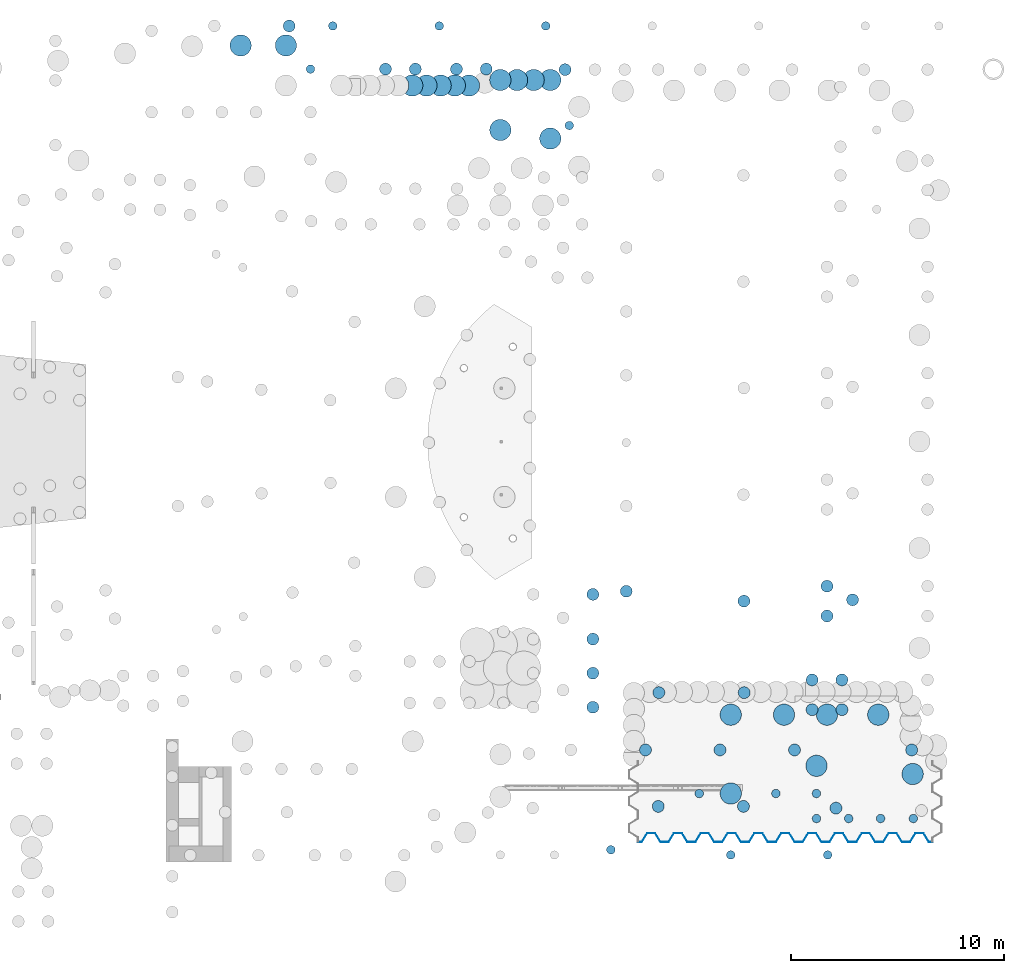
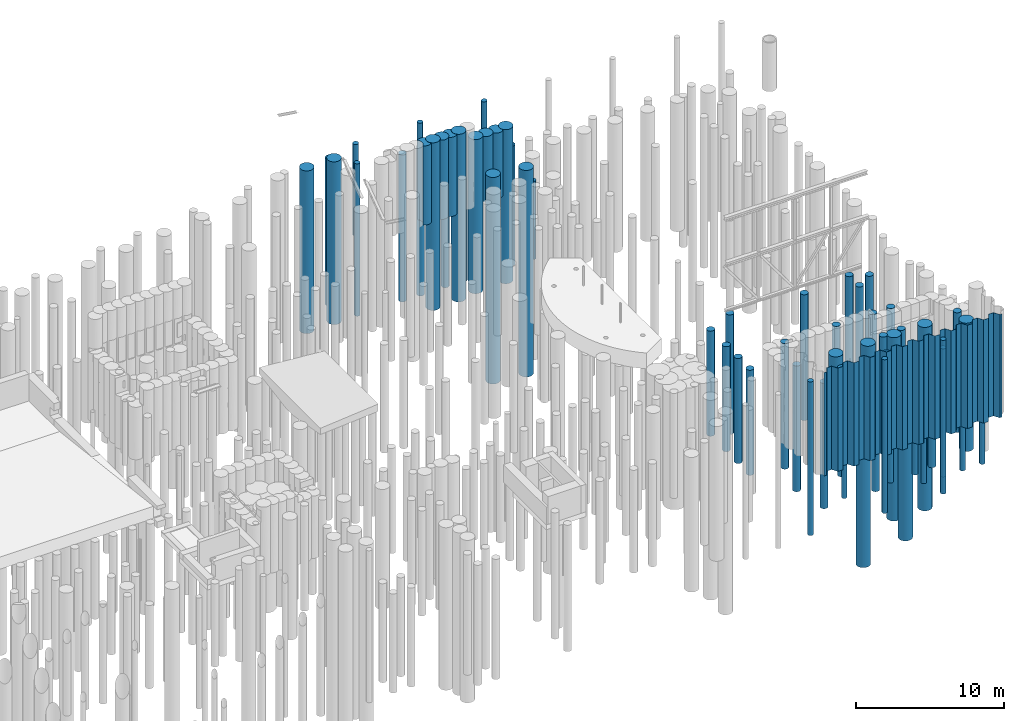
# One storey, part 5 of 104: 63 piles, 1 footing.
"""IFC2X3 building model written with IfcOpenShell, lengths in millimetres."""

from ifc_helpers import new_model, entity, si_unit, converted_unit, derived_unit, direction, frame, frame_2d, origin, origin_2d_with_axis, place, context, subcontext, project, spatial, polyline, circle_curve, parameter, trimmed, segment, composite_curve, circle, outline, extrude, source, transform, mapped, material, material_list, type_object, type_shapes, element, save


model = new_model("IFC2X3")

# Units and contexts
model_context = context("Model", 3, precision=0.01, world=origin(), true_north=direction((6.12303176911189e-17, 1.0)))
body_context = subcontext(model_context, "Body", "Model", "MODEL_VIEW")
ifc_project = project(units=[si_unit("LENGTHUNIT", "METRE", prefix="MILLI"), si_unit("AREAUNIT", "SQUARE_METRE", prefix="MILLI"), si_unit("VOLUMEUNIT", "CUBIC_METRE"), converted_unit("PLANEANGLEUNIT", "DEGREE", entity("IfcRatioMeasure", 0.0174532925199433), si_unit("PLANEANGLEUNIT", "RADIAN"), dimensions=[0, 0, 0, 0, 0, 0, 0]), si_unit("MASSUNIT", "GRAM", prefix="KILO"), derived_unit("MASSDENSITYUNIT", [(si_unit("MASSUNIT", "GRAM", prefix="KILO"), 1), (si_unit("LENGTHUNIT", "METRE"), -3)]), derived_unit("MOMENTOFINERTIAUNIT", [(si_unit("LENGTHUNIT", "METRE"), 4)]), si_unit("TIMEUNIT", "SECOND"), si_unit("FREQUENCYUNIT", "HERTZ"), si_unit("THERMODYNAMICTEMPERATUREUNIT", "DEGREE_CELSIUS"), derived_unit("THERMALTRANSMITTANCEUNIT", [(si_unit("MASSUNIT", "GRAM", prefix="KILO"), 1), (si_unit("THERMODYNAMICTEMPERATUREUNIT", "KELVIN"), -1), (si_unit("TIMEUNIT", "SECOND"), -3)]), derived_unit("VOLUMETRICFLOWRATEUNIT", [(si_unit("LENGTHUNIT", "METRE"), 3), (si_unit("TIMEUNIT", "SECOND"), -1)]), si_unit("ELECTRICCURRENTUNIT", "AMPERE"), si_unit("ELECTRICVOLTAGEUNIT", "VOLT"), si_unit("POWERUNIT", "WATT"), si_unit("FORCEUNIT", "NEWTON", prefix="KILO"), si_unit("ILLUMINANCEUNIT", "LUX"), si_unit("LUMINOUSFLUXUNIT", "LUMEN"), si_unit("LUMINOUSINTENSITYUNIT", "CANDELA"), derived_unit("USERDEFINED", [(si_unit("MASSUNIT", "GRAM", prefix="KILO"), -1), (si_unit("LENGTHUNIT", "METRE"), -2), (si_unit("TIMEUNIT", "SECOND"), 3), (si_unit("LUMINOUSFLUXUNIT", "LUMEN"), 1)]), derived_unit("LINEARVELOCITYUNIT", [(si_unit("LENGTHUNIT", "METRE"), 1), (si_unit("TIMEUNIT", "SECOND"), -1)]), si_unit("PRESSUREUNIT", "PASCAL"), derived_unit("USERDEFINED", [(si_unit("LENGTHUNIT", "METRE"), -2), (si_unit("MASSUNIT", "GRAM", prefix="KILO"), 1), (si_unit("TIMEUNIT", "SECOND"), -2)]), derived_unit("LINEARFORCEUNIT", [(si_unit("MASSUNIT", "GRAM", prefix="KILO"), 1), (si_unit("LENGTHUNIT", "METRE"), 1), (si_unit("TIMEUNIT", "SECOND"), -2), (si_unit("LENGTHUNIT", "METRE"), -1)]), derived_unit("PLANARFORCEUNIT", [(si_unit("MASSUNIT", "GRAM", prefix="KILO"), 1), (si_unit("LENGTHUNIT", "METRE"), 1), (si_unit("TIMEUNIT", "SECOND"), -2), (si_unit("LENGTHUNIT", "METRE"), -2)])], contexts=[model_context])

# Site, building, storey
site_placement = place(None, origin())
site = spatial("IfcSite", under=ifc_project, at=site_placement, Name="Theater aan de Parade", CompositionType="ELEMENT")
building_placement = place(site_placement, origin())
building = spatial("IfcBuilding", under=site, at=building_placement, Name="Theater aan de Parade", CompositionType="ELEMENT")
storey_placement = place(building_placement, frame((0.0, 0.0, -5520.0)))
storey = spatial("IfcBuildingStorey", under=building, at=storey_placement, Name="-2 kelder", CompositionType="ELEMENT", Elevation=-5520.0)

# Piles
ifc_material_1 = material(Name="<Unnamed>")
shared_shape_1 = source(origin(), body_context, "Body", "SweptSolid", [
    extrude(circle(Radius=280.0, at=frame_2d((1.69197988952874e-14, -4.61316659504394e-13), x_axis=(1.0, 0.0))), frame((0.0, 0.0, -12360.0)), (0.0, 0.0, 1.0), 8639.99999999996),
])
for number, where in (
    (1, (71875.0, 25285.0, 5520.0)),
    (2, (71875.0, 23185.0, 5520.0)),
    (3, (71875.0, 21585.0, 5520.0)),
    (4, (71875.0, 19985.0, 5520.0)),
):
    element("IfcPile", number, at=place(storey_placement, frame(where)), inside=storey, material=ifc_material_1, Name="17_PBT_SFO_paal_rond:Ø560 (betonpaal)_bestaand", ObjectType="17_PBT_SFO_paal_rond:Ø560 (betonpaal)_bestaand", PredefinedType="NOTDEFINED", context=body_context, shape_type="MappedRepresentation", body=[
        mapped(shared_shape_1, transform((0.0, 0.0, 0.0), scale=1.0)),
    ])
shared_shape_2 = source(origin(), body_context, "Body", "SweptSolid", [
    extrude(circle(Radius=280.0, at=frame_2d((1.69197988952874e-14, -4.61316659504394e-13), x_axis=(1.0, 0.0))), frame((0.0, 0.0, -12860.0)), (0.0, 0.0, 1.0), 12080.0),
])
for number, where in (
    (5, (57615.0, 51975.0, 5520.0)),
    (6, (62140.0, 49950.0, 5520.0)),
    (7, (63540.0, 49950.0, 5520.0)),
    (8, (65470.0, 49950.0, 5520.0)),
    (9, (66870.0, 49950.0, 5520.0)),
):
    element("IfcPile", number, at=place(storey_placement, frame(where)), inside=storey, material=ifc_material_1, Name="17_PBT_SFO_paal_rond:Ø560 (betonpaal)_bestaand", ObjectType="17_PBT_SFO_paal_rond:Ø560 (betonpaal)_bestaand", PredefinedType="NOTDEFINED", context=body_context, shape_type="MappedRepresentation", body=[
        mapped(shared_shape_2, transform((0.0, 0.0, 0.0), scale=1.0)),
    ])
shared_shape_3 = source(origin(), body_context, "Body", "SweptSolid", [
    extrude(circle(Radius=200.0, at=frame_2d((1.69197988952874e-14, -3.02923644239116e-13), x_axis=(1.0, 0.0))), frame((0.0, 0.0, -12860.0)), (0.0, 0.0, 1.0), 12530.0),
])
pile_1_placement = place(storey_placement, frame((58615.0, 49950.0, 5520.0)))
element("IfcPile", 10, at=pile_1_placement, inside=storey, material=ifc_material_1, Name="17_PBT_SFO_paal_rond:Ø400 (betonpaal)_bestaand", ObjectType="17_PBT_SFO_paal_rond:Ø400 (betonpaal)_bestaand", PredefinedType="NOTDEFINED", context=body_context, shape_type="MappedRepresentation", body=[
    mapped(shared_shape_3, transform((0.0, 0.0, 0.0), scale=1.0)),
])
shared_shape_4 = source(origin(), body_context, "Body", "SweptSolid", [
    extrude(circle(Radius=200.0, at=frame_2d((1.69197988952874e-14, -3.19843443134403e-13), x_axis=(1.0, 0.0))), frame((0.0, 0.0, -7860.0)), (0.0, 0.0, 1.0), 7529.99999999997),
])
for number, where in (
    (11, (64665.0, 51975.0, 5520.0)),
    (12, (59665.0, 51975.0, 5520.0)),
    (13, (69665.0, 51975.0, 5520.0)),
):
    element("IfcPile", number, at=place(storey_placement, frame(where)), inside=storey, material=ifc_material_1, Name="17_PBT_SFO_paal_rond:Ø400 (betonpaal)_bestaand", ObjectType="17_PBT_SFO_paal_rond:Ø400 (betonpaal)_bestaand", PredefinedType="NOTDEFINED", context=body_context, shape_type="MappedRepresentation", body=[
        mapped(shared_shape_4, transform((0.0, 0.0, 0.0), scale=1.0)),
    ])
shared_shape_5 = source(origin(), body_context, "Body", "SweptSolid", [
    extrude(circle(Radius=280.0, at=frame_2d((1.69197988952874e-14, -4.61316659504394e-13), x_axis=(1.0, 0.0))), frame((0.0, 0.0, -12860.0)), (0.0, 0.0, 1.0), 9839.99999999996),
])
for number, where in (
    (14, (70570.0, 49925.0, 5520.0)),
    (15, (73445.0, 25430.0, 5520.0)),
    (16, (86845.0, 17980.0, 5520.0)),
):
    element("IfcPile", number, at=place(storey_placement, frame(where)), inside=storey, material=ifc_material_1, Name="17_PBT_SFO_paal_rond:Ø560 (betonpaal)_bestaand", ObjectType="17_PBT_SFO_paal_rond:Ø560 (betonpaal)_bestaand", PredefinedType="NOTDEFINED", context=body_context, shape_type="MappedRepresentation", body=[
        mapped(shared_shape_5, transform((0.0, 0.0, 0.0), scale=1.0)),
    ])
shared_shape_6 = source(origin(), body_context, "Body", "SweptSolid", [
    extrude(circle(Radius=280.0, at=frame_2d((1.69197988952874e-14, -4.61316659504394e-13), x_axis=(1.0, 0.0))), frame((0.0, 0.0, -13360.0)), (0.0, 0.0, 1.0), 10340.0),
])
for number, where in (
    (17, (74345.0, 17980.0, 5520.0)),
    (18, (78980.0, 20670.0, 5520.0)),
    (19, (74975.0, 20670.0, 5520.0)),
    (20, (78970.0, 24970.0, 5520.0)),
):
    element("IfcPile", number, at=place(storey_placement, frame(where)), inside=storey, material=ifc_material_1, Name="17_PBT_SFO_paal_rond:Ø560 (betonpaal)_bestaand", ObjectType="17_PBT_SFO_paal_rond:Ø560 (betonpaal)_bestaand", PredefinedType="NOTDEFINED", context=body_context, shape_type="MappedRepresentation", body=[
        mapped(shared_shape_6, transform((0.0, 0.0, 0.0), scale=1.0)),
    ])
shared_shape_7 = source(origin(), body_context, "Body", "SweptSolid", [
    extrude(circle(Radius=200.0, at=frame_2d((1.69197988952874e-14, -3.47332565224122e-13), x_axis=(1.0, 0.0))), frame((0.0, 0.0, -10860.0)), (0.0, 0.0, 1.0), 6439.99999999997),
])
pile_2_placement = place(storey_placement, frame((70770.0, 47300.0, 5520.0)))
element("IfcPile", 21, at=pile_2_placement, inside=storey, material=ifc_material_1, Name="17_PBT_SFO_paal_rond:Ø400 (betonpaal)_bestaand", ObjectType="17_PBT_SFO_paal_rond:Ø400 (betonpaal)_bestaand", PredefinedType="NOTDEFINED", context=body_context, shape_type="MappedRepresentation", body=[
    mapped(shared_shape_7, transform((0.0, 0.0, 0.0), scale=1.0)),
])
shared_shape_8 = source(origin(), body_context, "Body", "SweptSolid", [
    extrude(circle(Radius=280.0, at=frame_2d((-1.69197988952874e-14, -5.23489148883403e-13), x_axis=(1.0, 0.0))), frame((0.0, 0.0, -13360.0)), (0.0, 0.0, 1.0), 8839.99999999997),
])
for number, where in (
    (22, (77845.0, 17980.0, 5520.0)),
    (23, (78945.0, 15330.0, 5520.0)),
    (24, (82170.0, 19870.0, 5520.0)),
    (25, (81345.0, 17980.0, 5520.0)),
):
    element("IfcPile", number, at=place(storey_placement, frame(where)), inside=storey, material=ifc_material_1, Name="17_PBT_SFO_paal_rond:Ø560 (betonpaal)_bestaand", ObjectType="17_PBT_SFO_paal_rond:Ø560 (betonpaal)_bestaand", PredefinedType="NOTDEFINED", context=body_context, shape_type="MappedRepresentation", body=[
        mapped(shared_shape_8, transform((0.0, 0.0, 0.0), scale=1.0)),
    ])
shared_shape_9 = source(origin(), body_context, "Body", "SweptSolid", [
    extrude(circle(Radius=280.0, at=frame_2d((-1.69197988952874e-14, -5.23489148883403e-13), x_axis=(1.0, 0.0))), frame((0.0, 0.0, -13360.0)), (0.0, 0.0, 1.0), 10310.0),
])
pile_3_placement = place(storey_placement, frame((74945.0, 15330.0, 5520.0)))
element("IfcPile", 26, at=pile_3_placement, inside=storey, material=ifc_material_1, Name="17_PBT_SFO_paal_rond:Ø560 (betonpaal)_bestaand", ObjectType="17_PBT_SFO_paal_rond:Ø560 (betonpaal)_bestaand", PredefinedType="NOTDEFINED", context=body_context, shape_type="MappedRepresentation", body=[
    mapped(shared_shape_9, transform((0.0, 0.0, 0.0), scale=1.0)),
])
shared_shape_10 = source(origin(), body_context, "Body", "SweptSolid", [
    extrude(circle(Radius=280.0, at=frame_2d((-1.69197988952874e-14, -5.23489148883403e-13), x_axis=(1.0, 0.0))), frame((0.0, 0.0, -13360.0)), (0.0, 0.0, 1.0), 10040.0),
])
for number, where in (
    (27, (84070.0, 25030.0, 5520.0)),
    (28, (82870.0, 25670.0, 5520.0)),
    (29, (82870.0, 24270.0, 5520.0)),
):
    element("IfcPile", number, at=place(storey_placement, frame(where)), inside=storey, material=ifc_material_1, Name="17_PBT_SFO_paal_rond:Ø560 (betonpaal)_bestaand", ObjectType="17_PBT_SFO_paal_rond:Ø560 (betonpaal)_bestaand", PredefinedType="NOTDEFINED", context=body_context, shape_type="MappedRepresentation", body=[
        mapped(shared_shape_10, transform((0.0, 0.0, 0.0), scale=1.0)),
    ])
shared_shape_11 = source(origin(), body_context, "Body", "SweptSolid", [
    extrude(circle(Radius=280.0, at=frame_2d((1.69197988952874e-14, -4.61316659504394e-13), x_axis=(1.0, 0.0))), frame((0.0, 0.0, -13360.0)), (0.0, 0.0, 1.0), 9839.99999999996),
])
for number, where in (
    (30, (83570.0, 21270.0, 5520.0)),
    (31, (82170.0, 21270.0, 5520.0)),
):
    element("IfcPile", number, at=place(storey_placement, frame(where)), inside=storey, material=ifc_material_1, Name="17_PBT_SFO_paal_rond:Ø560 (betonpaal)_bestaand", ObjectType="17_PBT_SFO_paal_rond:Ø560 (betonpaal)_bestaand", PredefinedType="NOTDEFINED", context=body_context, shape_type="MappedRepresentation", body=[
        mapped(shared_shape_11, transform((0.0, 0.0, 0.0), scale=1.0)),
    ])
shared_shape_12 = source(origin(), body_context, "Body", "SweptSolid", [
    extrude(circle(Radius=280.0, at=frame_2d((1.69197988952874e-14, -4.61316659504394e-13), x_axis=(1.0, 0.0))), frame((0.0, 0.0, -13360.0)), (0.0, 0.0, 1.0), 8889.99999999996),
])
pile_4_placement = place(storey_placement, frame((83570.0, 19870.0, 5520.0)))
element("IfcPile", 32, at=pile_4_placement, inside=storey, material=ifc_material_1, Name="17_PBT_SFO_paal_rond:Ø560 (betonpaal)_bestaand", ObjectType="17_PBT_SFO_paal_rond:Ø560 (betonpaal)_bestaand", PredefinedType="NOTDEFINED", context=body_context, shape_type="MappedRepresentation", body=[
    mapped(shared_shape_12, transform((0.0, 0.0, 0.0), scale=1.0)),
])
shared_shape_13 = source(origin(), body_context, "Body", "SweptSolid", [
    extrude(circle(Radius=280.0, at=frame_2d((1.69197988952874e-14, -4.61316659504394e-13), x_axis=(1.0, 0.0))), frame((0.0, 0.0, -12860.0)), (0.0, 0.0, 1.0), 9809.99999999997),
])
pile_5_placement = place(storey_placement, frame((83290.0, 15250.0, 5520.0)))
element("IfcPile", 33, at=pile_5_placement, inside=storey, material=ifc_material_1, Name="17_PBT_SFO_paal_rond:Ø560 (betonpaal)_bestaand", ObjectType="17_PBT_SFO_paal_rond:Ø560 (betonpaal)_bestaand", PredefinedType="NOTDEFINED", context=body_context, shape_type="MappedRepresentation", body=[
    mapped(shared_shape_13, transform((0.0, 0.0, 0.0), scale=1.0)),
])
ifc_material_2 = material(Name="00_PBT_MAT_grout")
shared_shape_14 = source(origin(), body_context, "Body", "SweptSolid", [
    extrude(circle(Radius=500.0, at=frame_2d((3.3839597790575e-14, -7.7318529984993e-13), x_axis=(1.0, 0.0))), frame((0.0, 0.0, -13610.0)), (0.0, 0.0, 1.0), 9089.99999999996),
])
for number, where in (
    (34, (78350.1000324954, 19635.0002435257, 5520.0)),
    (35, (80850.1000324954, 19635.0002435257, 5520.0)),
):
    element("IfcPile", number, at=place(storey_placement, frame(where)), inside=storey, material=ifc_material_2, Name="17_PBT_SFO_paal_rond:Ø1000 (jetgroutpaal) buiten kelder", ObjectType="17_PBT_SFO_paal_rond:Ø1000 (jetgroutpaal) buiten kelder", PredefinedType="NOTDEFINED", context=body_context, shape_type="MappedRepresentation", body=[
        mapped(shared_shape_14, transform((0.0, 0.0, 0.0), scale=1.0)),
    ])
shared_shape_15 = source(origin(), body_context, "Body", "SweptSolid", [
    extrude(circle(Radius=500.0, at=frame_2d((3.3839597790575e-14, -7.7318529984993e-13), x_axis=(1.0, 0.0))), frame((0.0, 0.0, -19610.0)), (0.0, 0.0, 1.0), 15090.0),
])
for number, where in (
    (36, (78350.1000324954, 15934.9960954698, 5520.0)),
    (37, (82870.0, 19635.0002435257, 5520.0)),
    (38, (85275.1000324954, 19635.0002435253, 5520.0)),
    (39, (82375.008421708, 17234.9960954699, 5520.0)),
):
    element("IfcPile", number, at=place(storey_placement, frame(where)), inside=storey, material=ifc_material_2, Name="17_PBT_SFO_paal_rond:Ø1000 (jetgroutpaal) buiten kelder", ObjectType="17_PBT_SFO_paal_rond:Ø1000 (jetgroutpaal) buiten kelder", PredefinedType="NOTDEFINED", context=body_context, shape_type="MappedRepresentation", body=[
        mapped(shared_shape_15, transform((0.0, 0.0, 0.0), scale=1.0)),
    ])
shared_shape_16 = source(origin(), body_context, "Body", "SweptSolid", [
    extrude(circle(Radius=200.0, at=frame_2d((1.69197988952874e-14, -3.02923644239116e-13), x_axis=(1.0, 0.0))), frame((0.0, 0.0, -13610.0)), (0.0, 0.0, 1.0), 9089.99999999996),
])
for number, where in (
    (40, (80470.0, 15934.9960954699, 5520.0)),
    (41, (82375.008421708, 15934.9960954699, 5520.0)),
):
    element("IfcPile", number, at=place(storey_placement, frame(where)), inside=storey, material=ifc_material_1, Name="17_PBT_SFO_paal_rond:Ø400 (Avegaarpaal)", ObjectType="17_PBT_SFO_paal_rond:Ø400 (Avegaarpaal)", PredefinedType="NOTDEFINED", context=body_context, shape_type="MappedRepresentation", body=[
        mapped(shared_shape_16, transform((0.0, 0.0, 0.0), scale=1.0)),
    ])
shared_shape_17 = source(origin(), body_context, "Body", "SweptSolid", [
    extrude(circle(Radius=200.0, at=frame_2d((1.69197988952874e-14, -3.47332565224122e-13), x_axis=(1.0, 0.0))), frame((0.0, 0.0, -13610.0)), (0.0, 0.0, 1.0), 10560.0),
])
for number, where in (
    (42, (82375.008421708, 14760.0, 5520.0)),
    (43, (86923.0, 14760.0, 5520.0)),
    (44, (85385.0, 14760.0, 5520.0)),
    (45, (83885.0, 14760.0, 5520.0)),
    (46, (76870.0, 15934.9960954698, 5520.0)),
):
    element("IfcPile", number, at=place(storey_placement, frame(where)), inside=storey, material=ifc_material_1, Name="17_PBT_SFO_paal_rond:Ø400 (Avegaarpaal)", ObjectType="17_PBT_SFO_paal_rond:Ø400 (Avegaarpaal)", PredefinedType="NOTDEFINED", context=body_context, shape_type="MappedRepresentation", body=[
        mapped(shared_shape_17, transform((0.0, 0.0, 0.0), scale=1.0)),
    ])
shared_shape_18 = source(origin(), body_context, "Body", "SweptSolid", [
    extrude(circle(Radius=500.0, at=frame_2d((2.57497682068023e-28, -8.84207602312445e-13), x_axis=(1.0, 0.0))), frame((0.0, 0.0, -13610.0)), (0.0, 0.0, 1.0), 10560.0),
])
pile_6_placement = place(storey_placement, frame((86890.8589695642, 16848.4322481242, 5520.0)))
element("IfcPile", 47, at=pile_6_placement, inside=storey, material=ifc_material_2, Name="17_PBT_SFO_paal_rond:Ø1000 (jetgroutpaal) buiten kelder", ObjectType="17_PBT_SFO_paal_rond:Ø1000 (jetgroutpaal) buiten kelder", PredefinedType="NOTDEFINED", context=body_context, shape_type="MappedRepresentation", body=[
    mapped(shared_shape_18, transform((0.0, 0.0, 0.0), scale=1.0)),
])
shared_shape_19 = source(origin(), body_context, "Body", "SweptSolid", [
    extrude(circle(Radius=500.0, at=frame_2d((3.3839597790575e-14, -7.7318529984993e-13), x_axis=(1.0, 0.0))), frame((0.0, 0.0, -19610.0)), (0.0, 0.0, 1.0), 16990.0),
])
for number, where in (
    (48, (67531.2561009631, 47086.8723406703, 5520.0)),
    (49, (69875.4088248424, 46686.8723406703, 5520.0)),
):
    element("IfcPile", number, at=place(storey_placement, frame(where)), inside=storey, material=ifc_material_2, Name="17_PBT_SFO_paal_rond:Ø1000 (jetgroutpaal) buiten kelder", ObjectType="17_PBT_SFO_paal_rond:Ø1000 (jetgroutpaal) buiten kelder", PredefinedType="NOTDEFINED", context=body_context, shape_type="MappedRepresentation", body=[
        mapped(shared_shape_19, transform((0.0, 0.0, 0.0), scale=1.0)),
    ])
shared_shape_20 = source(origin(), body_context, "Body", "SweptSolid", [
    extrude(circle(Radius=500.0, at=frame_2d((3.3839597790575e-14, -7.7318529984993e-13), x_axis=(1.0, 0.0))), frame((0.0, 0.0, -13610.0)), (0.0, 0.0, 1.0), 12680.0),
])
for number, where in (
    (50, (67531.2561009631, 49437.0, 5520.0)),
    (51, (69875.4088248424, 49437.0, 5520.0)),
):
    element("IfcPile", number, at=place(storey_placement, frame(where)), inside=storey, material=ifc_material_2, Name="17_PBT_SFO_paal_rond:Ø1000 (jetgroutpaal) buiten kelder", ObjectType="17_PBT_SFO_paal_rond:Ø1000 (jetgroutpaal) buiten kelder", PredefinedType="NOTDEFINED", context=body_context, shape_type="MappedRepresentation", body=[
        mapped(shared_shape_20, transform((0.0, 0.0, 0.0), scale=1.0)),
    ])
shared_shape_21 = source(origin(), body_context, "Body", "SweptSolid", [
    extrude(circle(Radius=500.0, at=frame_2d((3.3839597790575e-14, -7.7318529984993e-13), x_axis=(1.0, 0.0))), frame((0.0, 0.0, -13610.0)), (0.0, 0.0, 1.0), 13390.0),
])
for number, where in (
    (52, (57462.031563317, 51060.519112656, 5520.0)),
    (53, (55337.0315633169, 51060.519112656, 5520.0)),
):
    element("IfcPile", number, at=place(storey_placement, frame(where)), inside=storey, material=ifc_material_2, Name="17_PBT_SFO_paal_rond:Ø1000 (jetgroutpaal) buiten kelder", ObjectType="17_PBT_SFO_paal_rond:Ø1000 (jetgroutpaal) buiten kelder", PredefinedType="NOTDEFINED", context=body_context, shape_type="MappedRepresentation", body=[
        mapped(shared_shape_21, transform((0.0, 0.0, 0.0), scale=1.0)),
    ])
shared_shape_22 = source(origin(), body_context, "Body", "SweptSolid", [
    extrude(circle(Radius=500.0, at=frame_2d((3.3839597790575e-14, -7.7318529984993e-13), x_axis=(1.0, 0.0))), frame((0.0, 0.0, -13610.0)), (0.0, 0.0, 1.0), 13790.0),
])
for number, where in (
    (54, (64060.0, 49176.5644848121, 5520.0)),
    (55, (66060.0, 49176.5644848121, 5520.0)),
):
    element("IfcPile", number, at=place(storey_placement, frame(where)), inside=storey, material=ifc_material_2, Name="17_PBT_SFO_paal_rond:Ø1000 (jetgroutpaal) buiten kelder", ObjectType="17_PBT_SFO_paal_rond:Ø1000 (jetgroutpaal) buiten kelder", PredefinedType="NOTDEFINED", context=body_context, shape_type="MappedRepresentation", body=[
        mapped(shared_shape_22, transform((0.0, 0.0, 0.0), scale=1.0)),
    ])
shared_shape_23 = source(origin(), body_context, "Body", "SweptSolid", [
    extrude(circle(Radius=200.0, at=frame_2d((1.69197988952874e-14, -3.02923644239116e-13), x_axis=(1.0, 0.0))), frame((0.0, 0.0, -13610.0)), (0.0, 0.0, 1.0), 12640.0),
])
for number, where in (
    (56, (78350.0, 13050.0, 5520.0)),
    (57, (82900.0, 13050.0, 5520.0)),
    (58, (72720.0, 13292.0, 5520.0)),
):
    element("IfcPile", number, at=place(storey_placement, frame(where)), inside=storey, material=ifc_material_1, Name="17_PBT_SFO_paal_rond:Ø400 (Avegaarpaal)", ObjectType="17_PBT_SFO_paal_rond:Ø400 (Avegaarpaal)", PredefinedType="NOTDEFINED", context=body_context, shape_type="MappedRepresentation", body=[
        mapped(shared_shape_23, transform((0.0, 0.0, 0.0), scale=1.0)),
    ])

# Footing
ifc_material_3 = material(Name="00_PBT_MAT_staal")
ifc_material_list_1 = material_list([ifc_material_3, ifc_material_3, ifc_material_3, ifc_material_3, ifc_material_3, ifc_material_3, ifc_material_3, ifc_material_3, ifc_material_3, ifc_material_3, ifc_material_3])
ifc_material_list_2 = material_list([ifc_material_3, ifc_material_3, ifc_material_3, ifc_material_3, ifc_material_3, ifc_material_3, ifc_material_3, ifc_material_3, ifc_material_3, ifc_material_3, ifc_material_3])
type_product = type_object("IfcTypeProduct", Name="indicatie:Damwand ter indicatie", material=ifc_material_list_2)
shared_shape_24 = source(origin(), body_context, "Body", "SweptSolid", [
    extrude(outline(polyline([(-352.027000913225, -297.259971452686), (-454.198255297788, -463.702528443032), (-443.119129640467, -470.503482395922), (-344.262095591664, -309.459971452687), (141.516310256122, -309.459971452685), (341.464356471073, 16.2663228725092), (121.587681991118, 449.434774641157), (216.050253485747, 603.319465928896), (204.971127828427, 610.120419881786), (107.194335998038, 450.836682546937), (327.071010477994, 17.6682307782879), (133.751404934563, -297.259971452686), (-352.027000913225, -297.259971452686)])), frame((74612.7999999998, 13796.8228664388, -9510.0), z_axis=(0.0, 0.0, -1.0), x_axis=(0.523150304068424, 0.852240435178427, 0.0)), (0.0, 0.0, -1.0), 8500.0),
    extrude(outline(polyline([(-352.027000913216, -297.259971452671), (-454.198255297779, -463.702528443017), (-443.119129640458, -470.503482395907), (-344.262095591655, -309.459971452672), (141.516310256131, -309.459971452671), (341.464356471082, 16.266322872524), (121.587681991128, 449.434774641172), (216.050253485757, 603.319465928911), (204.971127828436, 610.120419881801), (107.194335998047, 450.836682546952), (327.071010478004, 17.6682307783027), (133.751404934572, -297.259971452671), (-352.027000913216, -297.259971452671)])), frame((75872.7999999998, 13796.8228664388, -9510.0), z_axis=(0.0, 0.0, -1.0), x_axis=(0.523150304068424, 0.852240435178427, 0.0)), (0.0, 0.0, -1.0), 8500.0),
    extrude(outline(polyline([(-352.027000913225, -297.259971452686), (-454.198255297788, -463.702528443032), (-443.119129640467, -470.503482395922), (-344.262095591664, -309.459971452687), (141.516310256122, -309.459971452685), (341.464356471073, 16.2663228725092), (121.587681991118, 449.434774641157), (216.050253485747, 603.319465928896), (204.971127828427, 610.120419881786), (107.194335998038, 450.836682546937), (327.071010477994, 17.6682307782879), (133.751404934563, -297.259971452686), (-352.027000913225, -297.259971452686)])), frame((77132.7999999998, 13796.8228664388, -9510.0), z_axis=(0.0, 0.0, -1.0), x_axis=(0.523150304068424, 0.852240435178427, 0.0)), (0.0, 0.0, -1.0), 8500.0),
    extrude(outline(polyline([(-352.027000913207, -297.259971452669), (-454.198255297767, -463.702528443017), (-443.119129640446, -470.503482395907), (-344.262095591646, -309.45997145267), (141.51631025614, -309.459971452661), (341.464356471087, 16.2663228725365), (121.58768199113, 449.434774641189), (216.050253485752, 603.319465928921), (204.971127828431, 610.120419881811), (107.194335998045, 450.836682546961), (327.071010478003, 17.6682307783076), (133.751404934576, -297.259971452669), (-352.027000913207, -297.259971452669)])), frame((78392.7999999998, 13796.8228664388, -9510.0), z_axis=(0.0, 0.0, -1.0), x_axis=(0.523150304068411, 0.852240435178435, 0.0)), (0.0, 0.0, -1.0), 8500.0),
    extrude(outline(polyline([(-352.027000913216, -297.259971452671), (-454.198255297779, -463.702528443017), (-443.119129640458, -470.503482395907), (-344.262095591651, -309.459971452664), (141.516310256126, -309.459971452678), (341.464356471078, 16.2663228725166), (121.587681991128, 449.434774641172), (216.050253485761, 603.319465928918), (204.97112782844, 610.120419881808), (107.194335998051, 450.836682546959), (327.071010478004, 17.6682307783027), (133.751404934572, -297.259971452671), (-352.027000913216, -297.259971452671)])), frame((79652.7999999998, 13796.8228664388, -9510.0), z_axis=(0.0, 0.0, -1.0), x_axis=(0.523150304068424, 0.852240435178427, 0.0)), (0.0, 0.0, -1.0), 8500.0),
    extrude(outline(polyline([(-352.027000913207, -297.259971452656), (-454.19825529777, -463.702528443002), (-443.119129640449, -470.503482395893), (-344.262095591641, -309.45997145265), (141.516310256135, -309.459971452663), (341.464356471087, 16.2663228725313), (121.587681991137, 449.434774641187), (216.05025348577, 603.319465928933), (204.971127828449, 610.120419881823), (107.19433599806, 450.836682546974), (327.071010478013, 17.6682307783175), (133.751404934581, -297.259971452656), (-352.027000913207, -297.259971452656)])), frame((80912.7999999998, 13796.8228664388, -9510.0), z_axis=(0.0, 0.0, -1.0), x_axis=(0.523150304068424, 0.852240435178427, 0.0)), (0.0, 0.0, -1.0), 8500.0),
    extrude(outline(polyline([(-352.027000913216, -297.259971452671), (-454.198255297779, -463.702528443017), (-443.119129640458, -470.503482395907), (-344.262095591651, -309.459971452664), (141.516310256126, -309.459971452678), (341.464356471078, 16.2663228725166), (121.587681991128, 449.434774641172), (216.050253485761, 603.319465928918), (204.97112782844, 610.120419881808), (107.194335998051, 450.836682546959), (327.071010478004, 17.6682307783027), (133.751404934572, -297.259971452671), (-352.027000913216, -297.259971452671)])), frame((82172.7999999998, 13796.8228664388, -9510.0), z_axis=(0.0, 0.0, -1.0), x_axis=(0.523150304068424, 0.852240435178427, 0.0)), (0.0, 0.0, -1.0), 8500.0),
    extrude(outline(polyline([(-352.027000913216, -297.259971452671), (-454.198255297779, -463.702528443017), (-443.119129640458, -470.503482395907), (-344.262095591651, -309.459971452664), (141.516310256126, -309.459971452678), (341.464356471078, 16.2663228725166), (121.587681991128, 449.434774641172), (216.050253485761, 603.319465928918), (204.97112782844, 610.120419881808), (107.194335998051, 450.836682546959), (327.071010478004, 17.6682307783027), (133.751404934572, -297.259971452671), (-352.027000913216, -297.259971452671)])), frame((83432.7999999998, 13796.8228664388, -9510.0), z_axis=(0.0, 0.0, -1.0), x_axis=(0.523150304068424, 0.852240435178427, 0.0)), (0.0, 0.0, -1.0), 8500.0),
    extrude(outline(polyline([(-352.027000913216, -297.259971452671), (-454.198255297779, -463.702528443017), (-443.119129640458, -470.503482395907), (-344.262095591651, -309.459971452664), (141.516310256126, -309.459971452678), (341.464356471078, 16.2663228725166), (121.587681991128, 449.434774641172), (216.050253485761, 603.319465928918), (204.97112782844, 610.120419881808), (107.194335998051, 450.836682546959), (327.071010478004, 17.6682307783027), (133.751404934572, -297.259971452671), (-352.027000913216, -297.259971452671)])), frame((84692.7999999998, 13796.8228664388, -9510.0), z_axis=(0.0, 0.0, -1.0), x_axis=(0.523150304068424, 0.852240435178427, 0.0)), (0.0, 0.0, -1.0), 8500.0),
    extrude(outline(polyline([(-352.027000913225, -297.259971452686), (-454.198255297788, -463.702528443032), (-443.119129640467, -470.503482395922), (-344.26209559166, -309.459971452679), (141.516310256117, -309.459971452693), (341.464356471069, 16.2663228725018), (121.587681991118, 449.434774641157), (216.050253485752, 603.319465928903), (204.971127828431, 610.120419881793), (107.194335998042, 450.836682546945), (327.071010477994, 17.6682307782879), (133.751404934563, -297.259971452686), (-352.027000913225, -297.259971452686)])), frame((85952.7999999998, 13796.8228664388, -9510.0), z_axis=(0.0, 0.0, -1.0), x_axis=(0.523150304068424, 0.852240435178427, 0.0)), (0.0, 0.0, -1.0), 8500.0),
    extrude(outline(polyline([(-352.027000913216, -297.259971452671), (-454.198255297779, -463.702528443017), (-443.119129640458, -470.503482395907), (-344.262095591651, -309.459971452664), (141.516310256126, -309.459971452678), (341.464356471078, 16.2663228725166), (121.587681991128, 449.434774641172), (216.050253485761, 603.319465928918), (204.97112782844, 610.120419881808), (107.194335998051, 450.836682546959), (327.071010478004, 17.6682307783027), (133.751404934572, -297.259971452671), (-352.027000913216, -297.259971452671)])), frame((87212.7999999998, 13796.8228664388, -9510.0), z_axis=(0.0, 0.0, -1.0), x_axis=(0.523150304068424, 0.852240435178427, 0.0)), (0.0, 0.0, -1.0), 8500.0),
])
type_shapes(type_product, [shared_shape_24])
footing_placement = place(storey_placement, frame((0.0, 0.0, 5520.0)))
element("IfcFooting", 59, at=footing_placement, inside=storey, type_object=type_product, material=ifc_material_list_1, Name="indicatie:Damwand ter indicatie", ObjectType="indicatie:Damwand ter indicatie", context=body_context, shape_type="MappedRepresentation", body=[
    mapped(shared_shape_24, transform((0.0, 0.0, 0.0), scale=1.0)),
])

# Piles
shared_shape_25 = source(origin(), body_context, "Body", "SweptSolid", [
    extrude(outline(composite_curve([segment(trimmed(circle_curve(frame_2d((-222.222222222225, 248.451997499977), x_axis=(1.0, 0.0)), 500.0), [parameter(0.0)], [parameter(263.620629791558)], True, "PARAMETER"), True, "CONTINUOUS"), segment(trimmed(circle_curve(frame_2d((222.222222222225, -248.451997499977), x_axis=(-1.0, 0.0)), 500.0), [parameter(263.620629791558)], [parameter(0.0)], True, "PARAMETER"), False, "CONTINUOUS")], self_intersect=False)), frame((63060.0, 49176.5644848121, -6360.0), z_axis=(0.0, 0.0, 1.0), x_axis=(-0.666666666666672, -0.745355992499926, 0.0)), (0.0, 0.0, 1.0), 6519.99999999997),
])
pile_7_placement = place(storey_placement, frame((0.0, 0.0, 5520.0)))
element("IfcPile", 60, at=pile_7_placement, inside=storey, material=ifc_material_2, Name="17_PBT_SFO_grondkering_rond:Ø1000 (grondkering)", ObjectType="17_PBT_SFO_grondkering_rond:Ø1000 (grondkering)", PredefinedType="NOTDEFINED", context=body_context, shape_type="MappedRepresentation", body=[
    mapped(shared_shape_25, transform((0.0, 0.0, 0.0), scale=1.0)),
])
shared_shape_26 = source(origin(), body_context, "Body", "SweptSolid", [
    extrude(circle(Radius=500.0, at=origin_2d_with_axis()), frame((64726.6666666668, 49176.5644848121, -6360.0)), (0.0, 0.0, 1.0), 6519.99999999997),
])
pile_8_placement = place(storey_placement, frame((0.0, 0.0, 5520.0)))
element("IfcPile", 61, at=pile_8_placement, inside=storey, material=ifc_material_2, Name="17_PBT_SFO_grondkering_rond:Ø1000 (grondkering)", ObjectType="17_PBT_SFO_grondkering_rond:Ø1000 (grondkering)", PredefinedType="NOTDEFINED", context=body_context, shape_type="MappedRepresentation", body=[
    mapped(shared_shape_26, transform((0.0, 0.0, 0.0), scale=1.0)),
])
shared_shape_27 = source(origin(), body_context, "Body", "SweptSolid", [
    extrude(outline(composite_curve([segment(trimmed(circle_curve(frame_2d((-222.222222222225, 248.451997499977), x_axis=(1.0, 0.0)), 500.0), [parameter(0.0)], [parameter(263.620629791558)], True, "PARAMETER"), True, "CONTINUOUS"), segment(trimmed(circle_curve(frame_2d((222.222222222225, -248.451997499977), x_axis=(-1.0, 0.0)), 500.0), [parameter(263.620629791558)], [parameter(0.0)], True, "PARAMETER"), False, "CONTINUOUS")], self_intersect=False)), frame((65060.0, 49176.5644848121, -6360.0), z_axis=(0.0, 0.0, 1.0), x_axis=(-0.666666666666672, -0.745355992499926, 0.0)), (0.0, 0.0, 1.0), 6519.99999999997),
])
pile_9_placement = place(storey_placement, frame((0.0, 0.0, 5520.0)))
element("IfcPile", 62, at=pile_9_placement, inside=storey, material=ifc_material_2, Name="17_PBT_SFO_grondkering_rond:Ø1000 (grondkering)", ObjectType="17_PBT_SFO_grondkering_rond:Ø1000 (grondkering)", PredefinedType="NOTDEFINED", context=body_context, shape_type="MappedRepresentation", body=[
    mapped(shared_shape_27, transform((0.0, 0.0, 0.0), scale=1.0)),
])
shared_shape_28 = source(origin(), body_context, "Body", "SweptSolid", [
    extrude(circle(Radius=500.0, at=origin_2d_with_axis()), frame((68312.6403422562, 49437.0, -6360.0)), (0.0, 0.0, 1.0), 5409.99999999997),
])
pile_10_placement = place(storey_placement, frame((0.0, 0.0, 5520.0)))
element("IfcPile", 63, at=pile_10_placement, inside=storey, material=ifc_material_2, Name="17_PBT_SFO_grondkering_rond:Ø1000 (grondkering)", ObjectType="17_PBT_SFO_grondkering_rond:Ø1000 (grondkering)", PredefinedType="NOTDEFINED", context=body_context, shape_type="MappedRepresentation", body=[
    mapped(shared_shape_28, transform((0.0, 0.0, 0.0), scale=1.0)),
])
shared_shape_29 = source(origin(), body_context, "Body", "SweptSolid", [
    extrude(outline(composite_curve([segment(trimmed(circle_curve(frame_2d((-305.280666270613, 243.811500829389), x_axis=(1.0, 0.0)), 500.0), [parameter(0.0)], [parameter(282.774981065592)], True, "PARAMETER"), True, "CONTINUOUS"), segment(trimmed(circle_curve(frame_2d((305.280666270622, -243.811500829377), x_axis=(-1.0, 0.0)), 500.000000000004), [parameter(282.77498106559)], [parameter(0.0)], True, "PARAMETER"), False, "CONTINUOUS")], self_intersect=False)), frame((68703.3324629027, 49437.0, -6360.0), z_axis=(0.0, 0.0, 1.0), x_axis=(-0.781384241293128, -0.624050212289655, 0.0)), (0.0, 0.0, 1.0), 5409.99999999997),
])
pile_11_placement = place(storey_placement, frame((0.0, 0.0, 5520.0)))
element("IfcPile", 64, at=pile_11_placement, inside=storey, material=ifc_material_2, Name="17_PBT_SFO_grondkering_rond:Ø1000 (grondkering)", ObjectType="17_PBT_SFO_grondkering_rond:Ø1000 (grondkering)", PredefinedType="NOTDEFINED", context=body_context, shape_type="MappedRepresentation", body=[
    mapped(shared_shape_29, transform((0.0, 0.0, 0.0), scale=1.0)),
])

save(model, "model.ifc")
